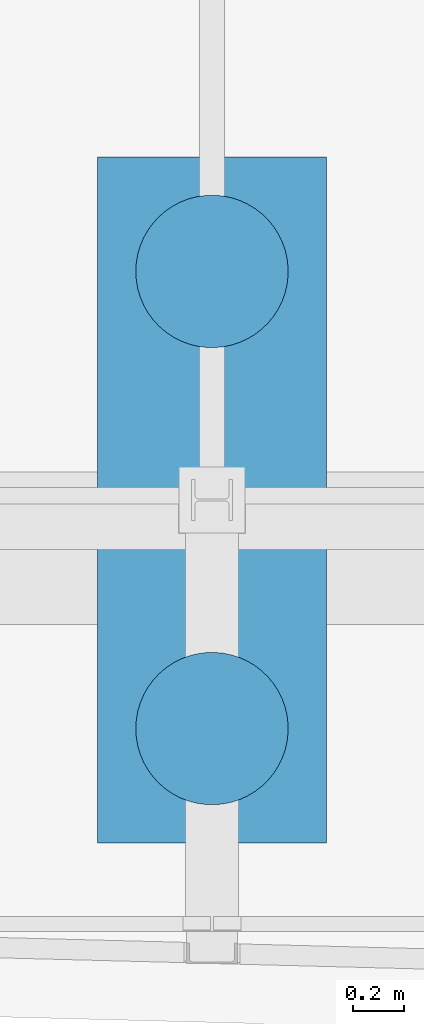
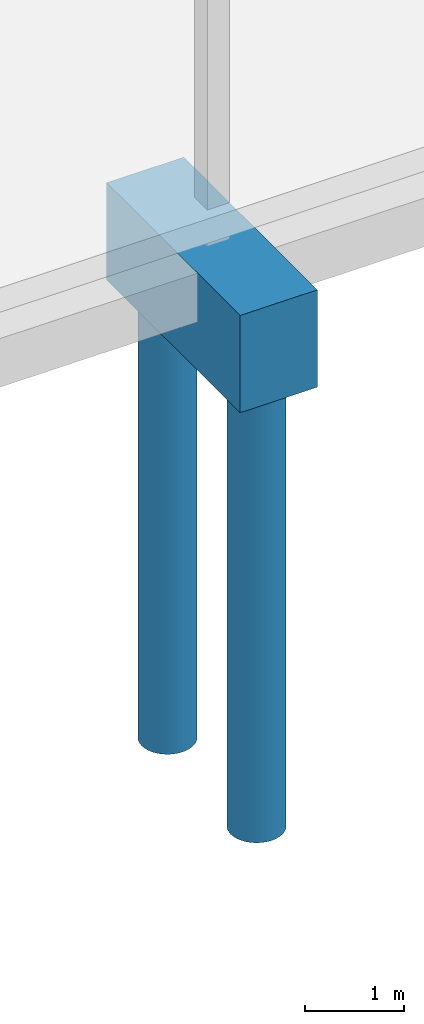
# One storey, part 41 of 82: 3 columns.
"""IFC2X3 building model written with IfcOpenShell, lengths in millimetres."""

from ifc_helpers import new_model, si_unit, frame, frame_2d, origin_with_axes, place, context, subcontext, project, spatial, rectangle, circle, extrude, material, type_object, element, save


model = new_model("IFC2X3")

# Units and contexts
model_context = context("Model", 3, precision=1e-05, world=origin_with_axes())
body_context = subcontext(model_context, "Body", "Model", "MODEL_VIEW")
ifc_project = project(units=[si_unit("LENGTHUNIT", "METRE", prefix="MILLI"), si_unit("AREAUNIT", "SQUARE_METRE"), si_unit("VOLUMEUNIT", "CUBIC_METRE"), si_unit("MASSUNIT", "GRAM", prefix="KILO"), si_unit("TIMEUNIT", "SECOND"), si_unit("PLANEANGLEUNIT", "RADIAN"), si_unit("SOLIDANGLEUNIT", "STERADIAN"), si_unit("THERMODYNAMICTEMPERATUREUNIT", "DEGREE_CELSIUS"), si_unit("LUMINOUSINTENSITYUNIT", "LUMEN")], contexts=[model_context])

# Site, building, storey
site_placement = place(None, origin_with_axes())
site = spatial("IfcSite", under=ifc_project, at=site_placement, Name="Undefined", CompositionType="ELEMENT")
building_placement = place(site_placement, origin_with_axes())
building = spatial("IfcBuilding", under=site, at=building_placement, Name="Undefined", CompositionType="ELEMENT")
storey_placement = place(building_placement, origin_with_axes())
storey = spatial("IfcBuildingStorey", under=building, at=storey_placement, Name="Undefined", CompositionType="ELEMENT", Elevation=0.0)

# Columns
ifc_material_1 = material(Name="CONCRETE/C30/37")
column_type_1 = type_object("IfcColumnType", Name="2700*900", PredefinedType="NOTDEFINED")
column_placement = place(storey_placement, frame((47100.0000000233, -1.81337526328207e-07, -1650.0), z_axis=(0.0, 0.0, 1.0), x_axis=(1.0, 0.0, 0.0)))
element("IfcColumn", 1, at=column_placement, inside=storey, type_object=column_type_1, material=ifc_material_1, Name="SEMELLE", ObjectType="2700*900", context=body_context, shape_type="SweptSolid", body=[
    extrude(rectangle(XDim=900.0, YDim=2700.0, at=frame_2d((5.17284206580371e-08, 4.49290382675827e-10), x_axis=(1.0, 0.0))), frame((0.0, 0.0, 1200.0), z_axis=(0.0, -6.50000002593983e-08, -0.999999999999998), x_axis=(-1.0, 0.0, 0.0)), (0.0, 0.0, 1.0), 1200.0),
])
ifc_material_2 = material(Name="CONCRETE/C25/30")
column_type_2 = type_object("IfcColumnType", Name="D600", PredefinedType="NOTDEFINED")
for number, where, z_axis, x_axis in (
    (2, (47100.0000000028, -900.000000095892, -7175.0), (0.0, 0.0, 1.0), (1.0, 0.0, 0.0)),
    (3, (47099.9999999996, 899.999999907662, -7175.0), (0.0, 0.0, 1.0), (1.0, 0.0, 0.0)),
):
    element("IfcColumn", number, at=place(storey_placement, frame(where, z_axis=z_axis, x_axis=x_axis)), inside=storey, type_object=column_type_2, material=ifc_material_2, Name="PIEU", ObjectType="D600", context=body_context, shape_type="SweptSolid", body=[
        extrude(circle(Radius=300.0, at=frame_2d((5.17284206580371e-08, 4.49290382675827e-10), x_axis=(1.0, 0.0))), frame((0.0, 0.0, 5750.0), z_axis=(0.0, -6.50000002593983e-08, -0.999999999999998), x_axis=(-1.0, 0.0, 0.0)), (0.0, 0.0, 1.0), 5750.0),
    ])

save(model, "model.ifc")
